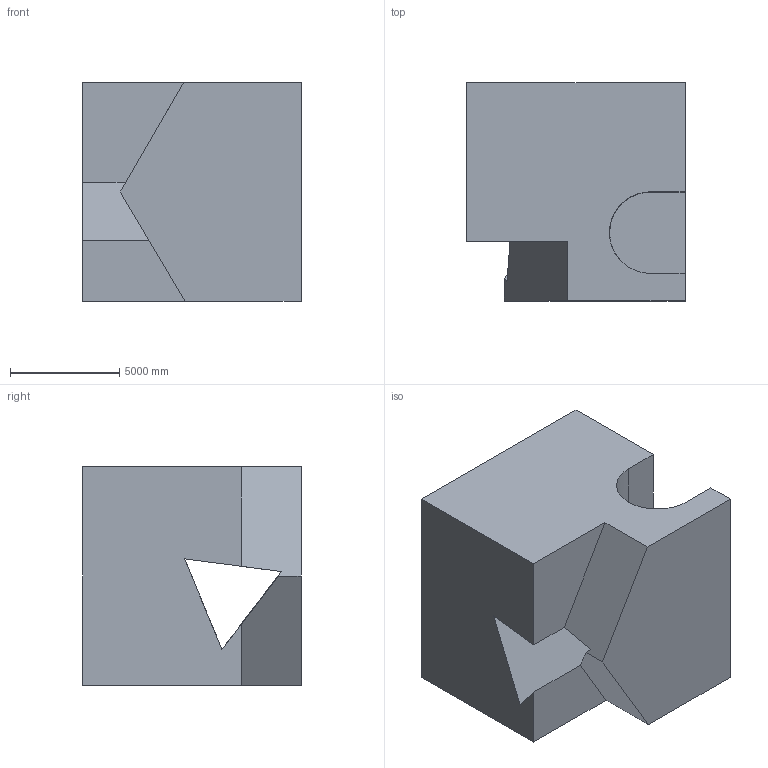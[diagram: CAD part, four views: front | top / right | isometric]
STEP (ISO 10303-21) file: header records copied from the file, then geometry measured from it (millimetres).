
FILE_DESCRIPTION (( 'STEP AP203' ), '1' );
FILE_NAME ('275.STEP', '2022-09-07T12:34:00', ( 'user' ), ( '' ), 'SwSTEP 2.0', 'SolidWorks 2021', '' );
FILE_SCHEMA (( 'CONFIG_CONTROL_DESIGN' ));
Length unit declared in the file: centimetre
Products named in the file (1): 275
Bounding box: 10000 x 10000 x 10000 mm (x, y, z)
Volume: 746651979948.4 mm3; surface area: 709349082.4 mm2
Topology: 1 solids, 1 shells, 25 faces, 75 edges, 50 vertices
Faces by surface type: plane 21, cylinder 4
Entity records: 916 total; most frequent: CARTESIAN_POINT 160, ORIENTED_EDGE 150, DIRECTION 130, EDGE_CURVE 75, VECTOR 66, LINE 66, VERTEX_POINT 50, AXIS2_PLACEMENT_3D 32
